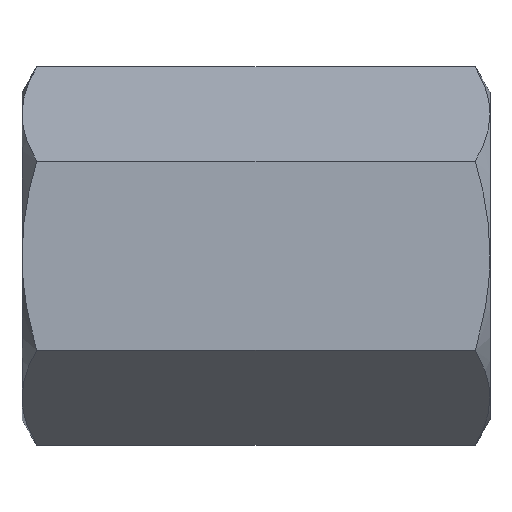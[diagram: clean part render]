
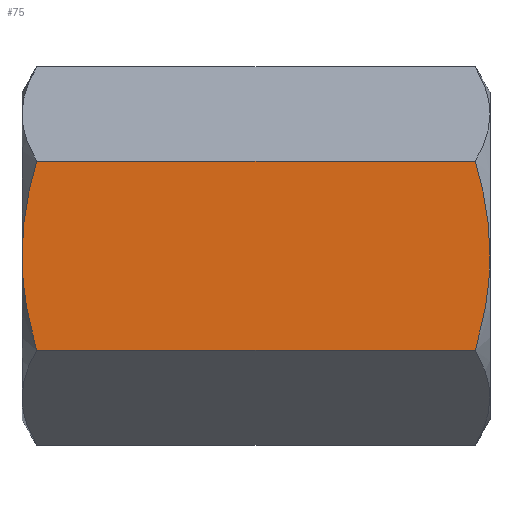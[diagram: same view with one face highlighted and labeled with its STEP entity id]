
A CAD part, top view. The second image highlights one B-rep face of the part: STEP entity #75.
In plain terms, the highlighted planar face has unit normal (0, 0, 1).
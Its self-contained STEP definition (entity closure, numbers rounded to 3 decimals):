
#75 = ADVANCED_FACE( '', ( #99 ), #100, .F. );
#99 = FACE_OUTER_BOUND( '', #150, .T. );
#100 = PLANE( '', #151 );
#150 = EDGE_LOOP( '', ( #201, #202, #203, #204, #205, #206 ) );
#151 = AXIS2_PLACEMENT_3D( '', #207, #208, #209 );
#201 = ORIENTED_EDGE( '', *, *, #362, .F. );
#202 = ORIENTED_EDGE( '', *, *, #363, .F. );
#203 = ORIENTED_EDGE( '', *, *, #364, .F. );
#204 = ORIENTED_EDGE( '', *, *, #365, .T. );
#205 = ORIENTED_EDGE( '', *, *, #366, .F. );
#206 = ORIENTED_EDGE( '', *, *, #367, .F. );
#207 = CARTESIAN_POINT( '', ( 10., 2.021, 3.5 ) );
#208 = DIRECTION( '', ( 0., 0., -1. ) );
#209 = DIRECTION( '', ( -1., 0., 0. ) );
#362 = EDGE_CURVE( '', #408, #409, #410, .T. );
#363 = EDGE_CURVE( '', #411, #408, #412, .F. );
#364 = EDGE_CURVE( '', #413, #411, #414, .F. );
#365 = EDGE_CURVE( '', #413, #415, #416, .T. );
#366 = EDGE_CURVE( '', #417, #415, #418, .T. );
#367 = EDGE_CURVE( '', #409, #417, #419, .T. );
#408 = VERTEX_POINT( '', #482 );
#409 = VERTEX_POINT( '', #483 );
#410 = LINE( '', #484, #485 );
#411 = VERTEX_POINT( '', #486 );
#412 = B_SPLINE_CURVE_WITH_KNOTS( '', 3, ( #487, #488, #489, #490, #491, #492 ), .UNSPECIFIED., .F., .F., ( 4, 2, 4 ), ( 0.004, 0.005, 0.006 ), .UNSPECIFIED. );
#413 = VERTEX_POINT( '', #493 );
#414 = B_SPLINE_CURVE_WITH_KNOTS( '', 3, ( #494, #495, #496, #497, #498, #499 ), .UNSPECIFIED., .F., .F., ( 4, 2, 4 ), ( 0.006, 0.007, 0.008 ), .UNSPECIFIED. );
#415 = VERTEX_POINT( '', #500 );
#416 = LINE( '', #501, #502 );
#417 = VERTEX_POINT( '', #503 );
#418 = B_SPLINE_CURVE_WITH_KNOTS( '', 3, ( #504, #505, #506, #507, #508, #509 ), .UNSPECIFIED., .F., .F., ( 4, 2, 4 ), ( 0.006, 0.007, 0.008 ), .UNSPECIFIED. );
#419 = B_SPLINE_CURVE_WITH_KNOTS( '', 3, ( #510, #511, #512, #513, #514, #515 ), .UNSPECIFIED., .F., .F., ( 4, 2, 4 ), ( 0.004, 0.005, 0.006 ), .UNSPECIFIED. );
#482 = CARTESIAN_POINT( '', ( 9.687, -2.021, 3.5 ) );
#483 = CARTESIAN_POINT( '', ( 0.313, -2.021, 3.5 ) );
#484 = CARTESIAN_POINT( '', ( 10., -2.021, 3.5 ) );
#485 = VECTOR( '', #666, 1000. );
#486 = CARTESIAN_POINT( '', ( 10., 0., 3.5 ) );
#487 = CARTESIAN_POINT( '', ( 9.687, -2.021, 3.5 ) );
#488 = CARTESIAN_POINT( '', ( 9.782, -1.692, 3.5 ) );
#489 = CARTESIAN_POINT( '', ( 9.862, -1.355, 3.5 ) );
#490 = CARTESIAN_POINT( '', ( 9.971, -0.681, 3.5 ) );
#491 = CARTESIAN_POINT( '', ( 10., -0.342, 3.5 ) );
#492 = CARTESIAN_POINT( '', ( 10., 0., 3.5 ) );
#493 = CARTESIAN_POINT( '', ( 9.687, 2.021, 3.5 ) );
#494 = CARTESIAN_POINT( '', ( 10., 0., 3.5 ) );
#495 = CARTESIAN_POINT( '', ( 10., 0.342, 3.5 ) );
#496 = CARTESIAN_POINT( '', ( 9.97, 0.688, 3.5 ) );
#497 = CARTESIAN_POINT( '', ( 9.86, 1.363, 3.5 ) );
#498 = CARTESIAN_POINT( '', ( 9.782, 1.694, 3.5 ) );
#499 = CARTESIAN_POINT( '', ( 9.687, 2.021, 3.5 ) );
#500 = CARTESIAN_POINT( '', ( 0.313, 2.021, 3.5 ) );
#501 = CARTESIAN_POINT( '', ( 10., 2.021, 3.5 ) );
#502 = VECTOR( '', #667, 1000. );
#503 = CARTESIAN_POINT( '', ( 0., 0., 3.5 ) );
#504 = CARTESIAN_POINT( '', ( 0., 0., 3.5 ) );
#505 = CARTESIAN_POINT( '', ( 0., 0.342, 3.5 ) );
#506 = CARTESIAN_POINT( '', ( 0.03, 0.688, 3.5 ) );
#507 = CARTESIAN_POINT( '', ( 0.14, 1.363, 3.5 ) );
#508 = CARTESIAN_POINT( '', ( 0.218, 1.694, 3.5 ) );
#509 = CARTESIAN_POINT( '', ( 0.313, 2.021, 3.5 ) );
#510 = CARTESIAN_POINT( '', ( 0.313, -2.021, 3.5 ) );
#511 = CARTESIAN_POINT( '', ( 0.218, -1.692, 3.5 ) );
#512 = CARTESIAN_POINT( '', ( 0.138, -1.355, 3.5 ) );
#513 = CARTESIAN_POINT( '', ( 0.029, -0.681, 3.5 ) );
#514 = CARTESIAN_POINT( '', ( 0., -0.342, 3.5 ) );
#515 = CARTESIAN_POINT( '', ( 0., 0., 3.5 ) );
#666 = DIRECTION( '', ( -1., 0., 0. ) );
#667 = DIRECTION( '', ( -1., 0., 0. ) );
